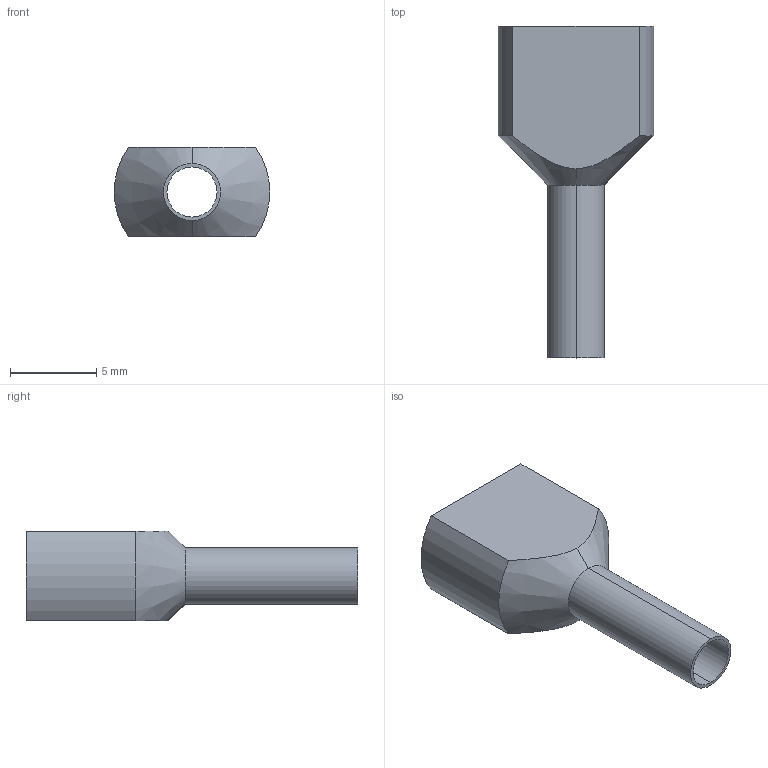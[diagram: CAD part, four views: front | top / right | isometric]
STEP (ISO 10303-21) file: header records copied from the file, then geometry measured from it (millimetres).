
FILE_DESCRIPTION (( 'STEP AP214' ), '1' );
FILE_NAME ('278049 OptiKit T-Shv2-PVC-2,5-10.STEP', '2020-02-19T10:34:43', ( '' ), ( '' ), 'SwSTEP 2.0', 'SolidWorks 2018', '' );
FILE_SCHEMA (( 'AUTOMOTIVE_DESIGN' ));
Length unit declared in the file: millimetre
Products named in the file (1): 278049 OptiKit T-Shv2-PVC-2,5-10
Bounding box: 9 x 19.2 x 5.2 mm (x, y, z)
Volume: 64.3 mm3; surface area: 650.1 mm2
Topology: 1 solids, 1 shells, 18 faces, 44 edges, 28 vertices
Faces by surface type: cylinder 8, plane 6, cone 4
Entity records: 836 total; most frequent: CARTESIAN_POINT 175, DIRECTION 90, ORIENTED_EDGE 88, EDGE_CURVE 44, AXIS2_PLACEMENT_3D 35, VERTEX_POINT 28, UNCERTAINTY_MEASURE_WITH_UNIT 21, STYLED_ITEM 20
